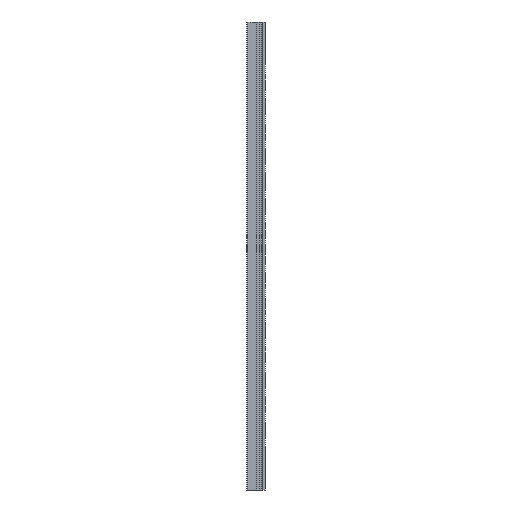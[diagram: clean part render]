
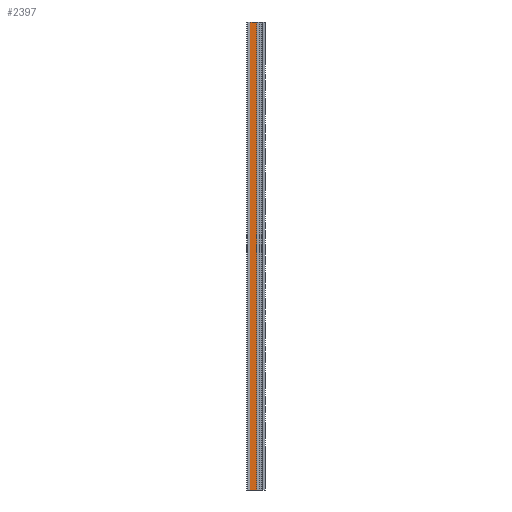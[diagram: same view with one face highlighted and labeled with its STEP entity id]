
A CAD part, left-side view. The second image highlights one B-rep face of the part: STEP entity #2397.
In plain terms, the highlighted planar face has unit normal (-1, 0, 0).
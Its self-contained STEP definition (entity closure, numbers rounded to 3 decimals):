
#283=FACE_OUTER_BOUND('',#437,.T.);
#437=EDGE_LOOP('',(#2137,#2138,#2139,#2140));
#592=LINE('',#3720,#850);
#687=LINE('',#3935,#945);
#688=LINE('',#3938,#946);
#689=LINE('',#3939,#947);
#850=VECTOR('',#3053,10.);
#945=VECTOR('',#3244,10.);
#946=VECTOR('',#3247,10.);
#947=VECTOR('',#3248,10.);
#1109=VERTEX_POINT('',#3717);
#1110=VERTEX_POINT('',#3719);
#1182=VERTEX_POINT('',#3933);
#1183=VERTEX_POINT('',#3937);
#1405=EDGE_CURVE('',#1109,#1110,#592,.T.);
#1513=EDGE_CURVE('',#1182,#1110,#687,.T.);
#1514=EDGE_CURVE('',#1183,#1182,#688,.T.);
#1515=EDGE_CURVE('',#1183,#1109,#689,.T.);
#2137=ORIENTED_EDGE('',*,*,#1514,.T.);
#2138=ORIENTED_EDGE('',*,*,#1513,.T.);
#2139=ORIENTED_EDGE('',*,*,#1405,.F.);
#2140=ORIENTED_EDGE('',*,*,#1515,.F.);
#2283=PLANE('',#2618);
#2397=ADVANCED_FACE('',(#283),#2283,.T.);
#2618=AXIS2_PLACEMENT_3D('',#3936,#3245,#3246);
#3053=DIRECTION('',(0.,-1.,0.));
#3244=DIRECTION('',(0.,0.,1.));
#3245=DIRECTION('center_axis',(-1.,0.,0.));
#3246=DIRECTION('ref_axis',(0.,-1.,0.));
#3247=DIRECTION('',(0.,-1.,0.));
#3248=DIRECTION('',(0.,0.,1.));
#3717=CARTESIAN_POINT('',(-13.5,12.5,377.));
#3719=CARTESIAN_POINT('',(-13.5,7.,377.));
#3720=CARTESIAN_POINT('',(-13.5,12.5,377.));
#3933=CARTESIAN_POINT('',(-13.5,7.,0.));
#3935=CARTESIAN_POINT('',(-13.5,7.,0.));
#3936=CARTESIAN_POINT('Origin',(-13.5,12.5,0.));
#3937=CARTESIAN_POINT('',(-13.5,12.5,0.));
#3938=CARTESIAN_POINT('',(-13.5,12.5,0.));
#3939=CARTESIAN_POINT('',(-13.5,12.5,0.));
